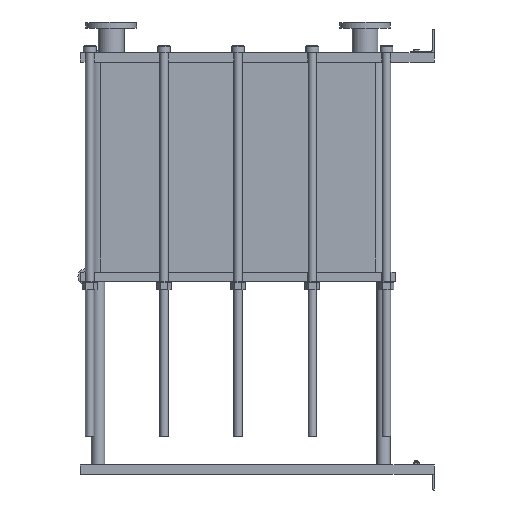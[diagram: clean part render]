
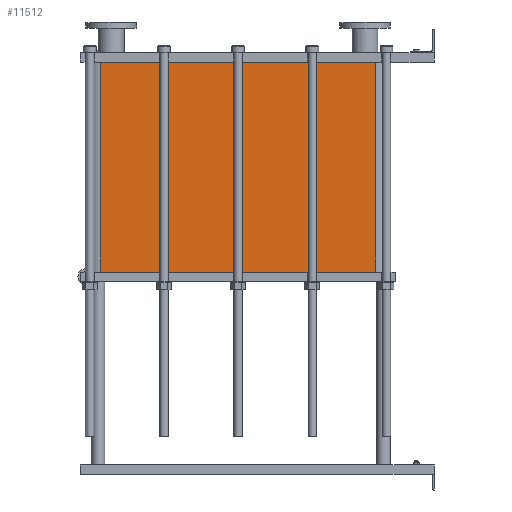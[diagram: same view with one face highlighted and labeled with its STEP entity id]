
A CAD part, left-side view. The second image highlights one B-rep face of the part: STEP entity #11512.
In plain terms, the highlighted planar face has unit normal (-1, 0, 0).
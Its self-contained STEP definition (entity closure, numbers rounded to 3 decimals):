
#1129=LINE('',#23232,#2102);
#1130=LINE('',#23236,#2103);
#1131=LINE('',#23238,#2104);
#1132=LINE('',#23239,#2105);
#2102=VECTOR('',#15887,10.);
#2103=VECTOR('',#15892,10.);
#2104=VECTOR('',#15893,10.);
#2105=VECTOR('',#15894,10.);
#3267=FACE_OUTER_BOUND('',#4093,.T.);
#4093=EDGE_LOOP('',(#10103,#10104,#10105,#10106));
#5642=VERTEX_POINT('',#23229);
#5643=VERTEX_POINT('',#23231);
#5644=VERTEX_POINT('',#23235);
#5645=VERTEX_POINT('',#23237);
#7159=EDGE_CURVE('',#5643,#5642,#1129,.T.);
#7161=EDGE_CURVE('',#5642,#5644,#1130,.T.);
#7162=EDGE_CURVE('',#5645,#5644,#1131,.T.);
#7163=EDGE_CURVE('',#5645,#5643,#1132,.T.);
#10103=ORIENTED_EDGE('',*,*,#7161,.T.);
#10104=ORIENTED_EDGE('',*,*,#7162,.F.);
#10105=ORIENTED_EDGE('',*,*,#7163,.T.);
#10106=ORIENTED_EDGE('',*,*,#7159,.T.);
#10857=PLANE('',#12751);
#11512=ADVANCED_FACE('',(#3267),#10857,.T.);
#12751=AXIS2_PLACEMENT_3D('',#23234,#15890,#15891);
#15887=DIRECTION('',(0.,0.,-1.));
#15890=DIRECTION('center_axis',(-1.,0.,0.));
#15891=DIRECTION('ref_axis',(0.,1.,0.));
#15892=DIRECTION('',(0.,-1.,0.));
#15893=DIRECTION('',(0.,0.,-1.));
#15894=DIRECTION('',(0.,1.,0.));
#23229=CARTESIAN_POINT('',(-200.,1414.,-890.1));
#23231=CARTESIAN_POINT('',(-200.,1414.,0.));
#23232=CARTESIAN_POINT('',(-200.,1414.,0.));
#23234=CARTESIAN_POINT('Origin',(-200.,248.,0.));
#23235=CARTESIAN_POINT('',(-200.,248.,-890.1));
#23236=CARTESIAN_POINT('',(-200.,539.5,-890.1));
#23237=CARTESIAN_POINT('',(-200.,248.,0.));
#23238=CARTESIAN_POINT('',(-200.,248.,0.));
#23239=CARTESIAN_POINT('',(-200.,248.,0.));
